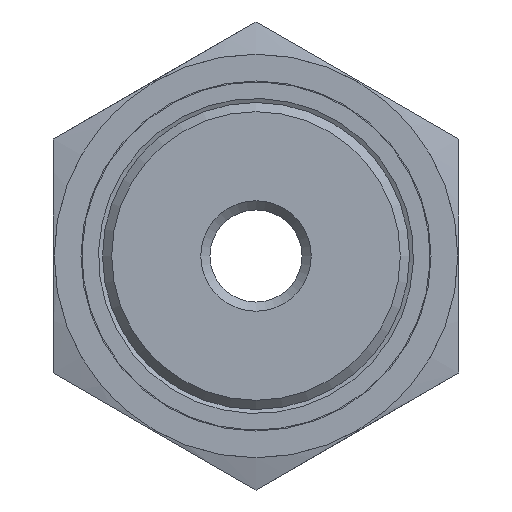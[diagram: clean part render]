
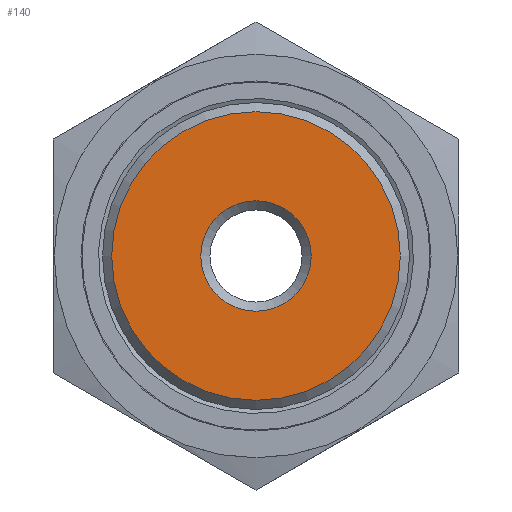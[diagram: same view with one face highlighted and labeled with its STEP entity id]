
A CAD part, left-side view. The second image highlights one B-rep face of the part: STEP entity #140.
In plain terms, the highlighted planar face has unit normal (-1, 0, 0).
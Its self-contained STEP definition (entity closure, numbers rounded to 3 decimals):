
#140 = ADVANCED_FACE( '', ( #283, #284 ), #285, .T. );
#283 = FACE_BOUND( '', #443, .T. );
#284 = FACE_OUTER_BOUND( '', #444, .T. );
#285 = PLANE( '', #445 );
#443 = EDGE_LOOP( '', ( #652 ) );
#444 = EDGE_LOOP( '', ( #653 ) );
#445 = AXIS2_PLACEMENT_3D( '', #654, #655, #656 );
#652 = ORIENTED_EDGE( '', *, *, #832, .T. );
#653 = ORIENTED_EDGE( '', *, *, #804, .T. );
#654 = CARTESIAN_POINT( '', ( -34.5, -11., -6.351 ) );
#655 = DIRECTION( '', ( -1., 0., 0. ) );
#656 = DIRECTION( '', ( 0., -1., 0. ) );
#804 = EDGE_CURVE( '', #910, #910, #911, .T. );
#832 = EDGE_CURVE( '', #952, #952, #953, .F. );
#910 = VERTEX_POINT( '', #1094 );
#911 = CIRCLE( '', #1095, 7.831 );
#952 = VERTEX_POINT( '', #1188 );
#953 = CIRCLE( '', #1189, 3. );
#1094 = CARTESIAN_POINT( '', ( -34.5, -7.831, 0. ) );
#1095 = AXIS2_PLACEMENT_3D( '', #1264, #1265, #1266 );
#1188 = CARTESIAN_POINT( '', ( -34.5, -3., 0. ) );
#1189 = AXIS2_PLACEMENT_3D( '', #1296, #1297, #1298 );
#1264 = CARTESIAN_POINT( '', ( -34.5, 0., 0. ) );
#1265 = DIRECTION( '', ( -1., 0., 0. ) );
#1266 = DIRECTION( '', ( 0., -1., 0. ) );
#1296 = CARTESIAN_POINT( '', ( -34.5, 0., 0. ) );
#1297 = DIRECTION( '', ( -1., 0., 0. ) );
#1298 = DIRECTION( '', ( 0., -1., 0. ) );
